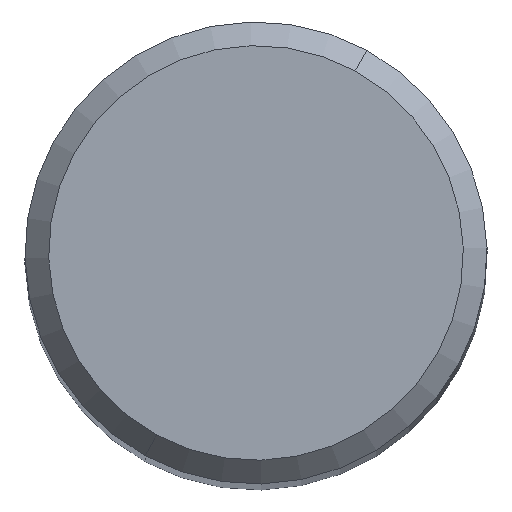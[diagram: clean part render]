
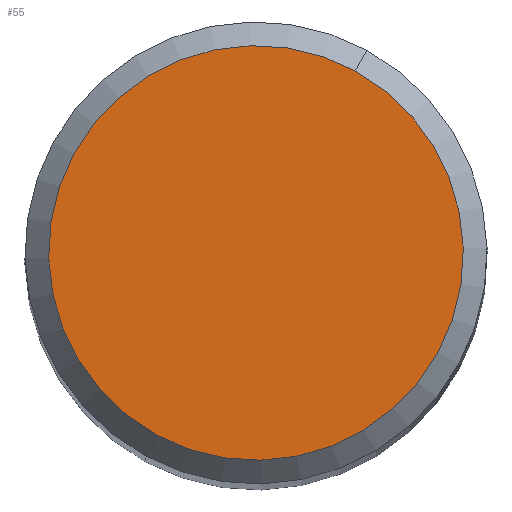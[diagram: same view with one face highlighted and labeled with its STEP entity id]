
A CAD part, top view. The second image highlights one B-rep face of the part: STEP entity #55.
In plain terms, the highlighted planar face has unit normal (0, 0, 1).
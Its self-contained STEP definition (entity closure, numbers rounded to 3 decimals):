
#35=AXIS2_PLACEMENT_3D('Plane Axis2P3D',#32,#33,#34) ;
#39=AXIS2_PLACEMENT_3D('Circle Axis2P3D',#37,#38,$) ;
#48=AXIS2_PLACEMENT_3D('Circle Axis2P3D',#46,#47,$) ;
#32=CARTESIAN_POINT('Axis2P3D Location',(0.,5.384,0.)) ;
#37=CARTESIAN_POINT('Axis2P3D Location',(0.,0.,0.)) ;
#41=CARTESIAN_POINT('Vertex',(2.581,4.724,0.)) ;
#43=CARTESIAN_POINT('Vertex',(-2.581,-4.724,0.)) ;
#46=CARTESIAN_POINT('Axis2P3D Location',(0.,0.,0.)) ;
#33=DIRECTION('Axis2P3D Direction',(0.,0.,-1.)) ;
#34=DIRECTION('Axis2P3D XDirection',(0.,1.,0.)) ;
#38=DIRECTION('Axis2P3D Direction',(0.,0.,-1.)) ;
#47=DIRECTION('Axis2P3D Direction',(0.,0.,-1.)) ;
#52=ORIENTED_EDGE('',*,*,#45,.F.) ;
#53=ORIENTED_EDGE('',*,*,#50,.F.) ;
#55=ADVANCED_FACE('NO_CUT',(#54),#36,.F.) ;
#40=CIRCLE('generated circle',#39,5.384) ;
#49=CIRCLE('generated circle',#48,5.384) ;
#45=EDGE_CURVE('',#42,#44,#40,.T.) ;
#50=EDGE_CURVE('',#44,#42,#49,.T.) ;
#51=EDGE_LOOP('',(#52,#53)) ;
#54=FACE_OUTER_BOUND('',#51,.T.) ;
#36=PLANE('Plane',#35) ;
#42=VERTEX_POINT('',#41) ;
#44=VERTEX_POINT('',#43) ;
